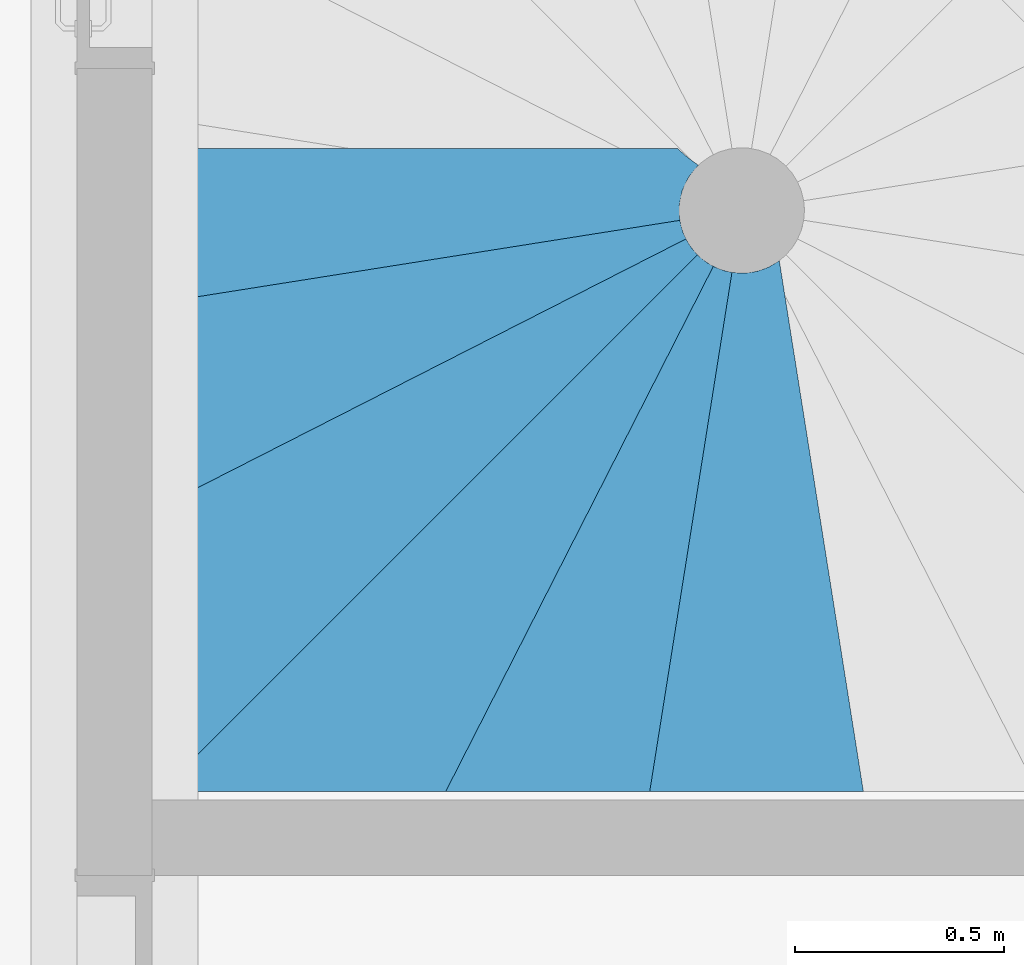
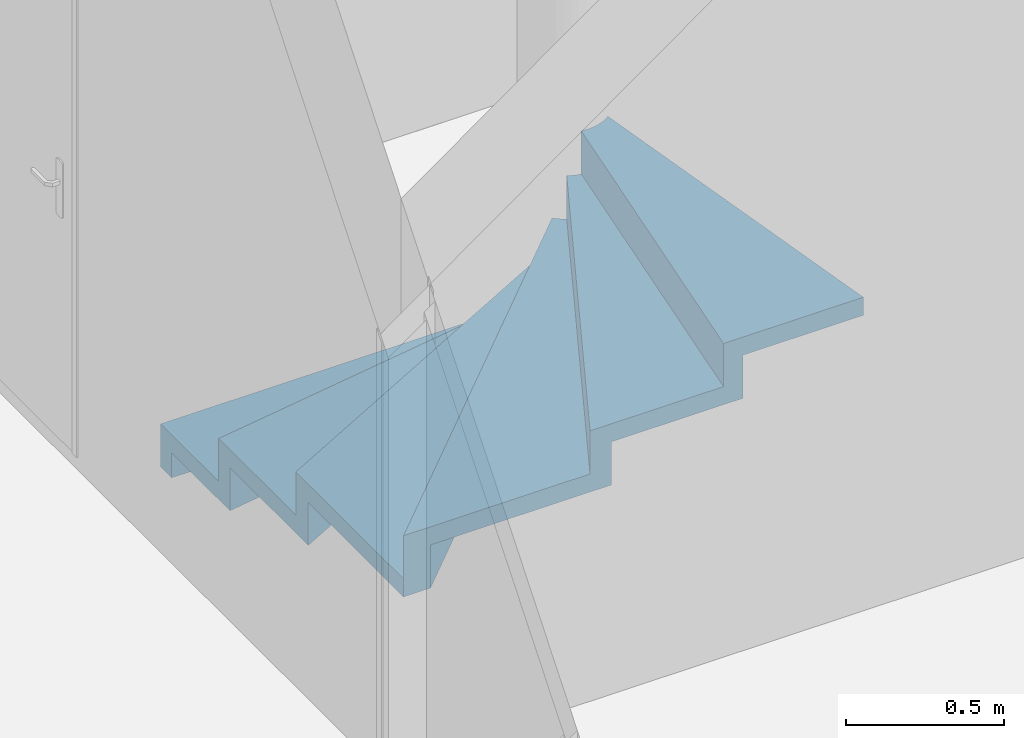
# One storey, part 27 of 29: 1 stair, 1 element without a shape of its own.
"""IFC2X3 building model written with IfcOpenShell, lengths in centimetres."""

from ifc_helpers import new_model, entity, si_unit, converted_unit, derived_unit, direction, frame, origin, place, context, subcontext, project, spatial, faceted_brep, material, element, aggregate, save


model = new_model("IFC2X3")

# Units and contexts
model_context = context("Model", 3, precision=0.001, world=origin(), true_north=direction((6.12303176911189e-17, 1.0)))
body_context = subcontext(model_context, "Body", "Model", "MODEL_VIEW")
ifc_project = project(units=[si_unit("LENGTHUNIT", "METRE", prefix="CENTI"), si_unit("AREAUNIT", "SQUARE_METRE"), si_unit("VOLUMEUNIT", "CUBIC_METRE"), converted_unit("PLANEANGLEUNIT", "DEGREE", entity("IfcRatioMeasure", 0.0174532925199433), si_unit("PLANEANGLEUNIT", "RADIAN"), dimensions=[0, 0, 0, 0, 0, 0, 0]), si_unit("MASSUNIT", "GRAM", prefix="KILO"), derived_unit("MASSDENSITYUNIT", [(si_unit("MASSUNIT", "GRAM", prefix="KILO"), 1), (si_unit("LENGTHUNIT", "METRE"), -3)]), si_unit("TIMEUNIT", "SECOND"), si_unit("FREQUENCYUNIT", "HERTZ"), si_unit("THERMODYNAMICTEMPERATUREUNIT", "DEGREE_CELSIUS"), derived_unit("THERMALTRANSMITTANCEUNIT", [(si_unit("MASSUNIT", "GRAM", prefix="KILO"), 1), (si_unit("THERMODYNAMICTEMPERATUREUNIT", "KELVIN"), -1), (si_unit("TIMEUNIT", "SECOND"), -3)]), derived_unit("VOLUMETRICFLOWRATEUNIT", [(si_unit("LENGTHUNIT", "METRE"), 3), (si_unit("TIMEUNIT", "SECOND"), -1)]), si_unit("ELECTRICCURRENTUNIT", "AMPERE"), si_unit("ELECTRICVOLTAGEUNIT", "VOLT"), si_unit("POWERUNIT", "WATT"), si_unit("FORCEUNIT", "NEWTON"), si_unit("ILLUMINANCEUNIT", "LUX"), si_unit("LUMINOUSFLUXUNIT", "LUMEN"), si_unit("LUMINOUSINTENSITYUNIT", "CANDELA"), derived_unit("USERDEFINED", [(si_unit("MASSUNIT", "GRAM", prefix="KILO"), -1), (si_unit("LENGTHUNIT", "METRE"), -2), (si_unit("TIMEUNIT", "SECOND"), 3), (si_unit("LUMINOUSFLUXUNIT", "LUMEN"), 1)]), derived_unit("LINEARVELOCITYUNIT", [(si_unit("LENGTHUNIT", "METRE"), 1), (si_unit("TIMEUNIT", "SECOND"), -1)]), si_unit("PRESSUREUNIT", "PASCAL"), derived_unit("USERDEFINED", [(si_unit("LENGTHUNIT", "METRE"), -2), (si_unit("MASSUNIT", "GRAM", prefix="KILO"), 1), (si_unit("TIMEUNIT", "SECOND"), -2)])], contexts=[model_context])

# Site, building, storey
site_placement = place(None, origin())
site = spatial("IfcSite", under=ifc_project, at=site_placement, Name="Default", CompositionType="ELEMENT")
building_placement = place(site_placement, origin())
building = spatial("IfcBuilding", under=site, at=building_placement, Name="CAGE 03", CompositionType="ELEMENT")
storey_placement = place(building_placement, frame((0.0, 0.0, -26.0)))
storey = spatial("IfcBuildingStorey", under=building, at=storey_placement, Name="+3.74", CompositionType="ELEMENT", Elevation=-26.0000000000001)

# Stairs
stair_1_placement = place(storey_placement, frame((7033.36582014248, 4652.6606660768, 0.0)))
stair_1 = element("IfcStair", 1, at=stair_1_placement, inside=storey, Name="Escalier:Monobloc-générique", ObjectType="Escalier:Monobloc-générique", ShapeType="NOTDEFINED")
ifc_material = material(Name="Béton, C25/30")
stair_2_placement = place(stair_1_placement, origin())
stair_2 = element("IfcStair", 2, at=stair_2_placement, material=ifc_material, Name="Escalier:Monobloc-générique", ObjectType="Escalier:Monobloc-générique", ShapeType="NOTDEFINED", context=body_context, shape_type="Brep", body=[
    faceted_brep([(126.994218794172, 130.007713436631, 16.6666666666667), (125.191508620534, 133.141197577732, 16.6666666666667), (124.190825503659, 136.614973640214, 16.6666666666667), (124.050291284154, 140.227277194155, 16.6666666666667), (124.778068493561, 143.768297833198, 16.6666666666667), (126.331886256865, 147.032365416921, 16.6666666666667), (128.621495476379, 149.829895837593, 16.6666666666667), (126.054733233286, 151.706272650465, 16.6666666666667), (123.669290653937, 153.808348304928, 16.6666666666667), (0.0, 153.808348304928, 16.6666666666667), (0.0, 109.893805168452, 16.6666666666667), (128.621495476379, 149.829895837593, 9.66666666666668), (126.331886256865, 147.032365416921, 9.66666666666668), (124.778068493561, 143.768297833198, 9.66666666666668), (124.050291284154, 140.227277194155, 9.66666666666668), (124.190825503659, 136.614973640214, 9.66666666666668), (125.191508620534, 133.141197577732, 9.66666666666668), (126.994218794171, 130.007713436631, 9.66666666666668), (0.0, 109.893805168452, 9.66666666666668), (0.0, 153.808348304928, 9.66666666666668), (123.669290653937, 153.808348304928, 9.66666666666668), (126.054733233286, 151.706272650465, 9.66666666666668)], [[[0, 1, 2, 3, 4, 5, 6, 7, 8, 9, 10]], [[11, 12, 13, 14, 15, 16, 17, 18, 19, 20, 21]], [[1, 0, 17, 16]], [[2, 1, 16, 15]], [[14, 3, 2, 15]], [[11, 6, 5, 12]], [[12, 5, 4, 13]], [[13, 4, 3, 14]], [[10, 9, 19, 18]], [[9, 8, 20, 19]], [[11, 21, 7, 6]], [[20, 8, 7, 21]], [[0, 10, 18, 17]]]),
    faceted_brep([(0.0, 116.981061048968, 33.3333333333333), (0.0, 60.3178918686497, 33.3333333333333), (130.358867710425, 126.739052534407, 33.3333333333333), (128.096356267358, 128.699002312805, 33.3333333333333), (126.268069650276, 131.069177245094, 33.3333333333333), (124.946817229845, 133.755187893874, 33.3333333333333), (124.185216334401, 136.650067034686, 33.3333333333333), (124.946817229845, 133.755187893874, 26.3333333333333), (126.268069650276, 131.069177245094, 26.3333333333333), (128.096356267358, 128.699002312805, 26.3333333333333), (130.358867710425, 126.739052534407, 26.3333333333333), (0.0, 60.3178918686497, 26.3333333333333), (0.0, 116.981061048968, 26.3333333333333), (124.185216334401, 136.650067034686, 26.3333333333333)], [[[0, 1, 2, 3, 4, 5, 6]], [[7, 8, 9, 10, 11, 12, 13]], [[10, 9, 3, 2]], [[4, 3, 9, 8]], [[13, 6, 5, 7]], [[8, 7, 5, 4]], [[1, 0, 12, 11]], [[0, 6, 13, 12]], [[2, 1, 11, 10]]]),
    faceted_brep([(0.0, 68.1741755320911, 50.0), (0.0, 0.0, 50.0), (9.90299964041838, 0.0, 50.0), (134.571593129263, 124.668593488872, 50.0), (131.813451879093, 125.833621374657, 50.0), (129.341642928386, 127.523234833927, 50.0), (127.254650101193, 129.670114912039, 50.0), (125.635625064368, 132.188723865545, 50.0), (129.341642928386, 127.523234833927, 43.0), (131.813451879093, 125.833621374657, 43.0), (134.571593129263, 124.668593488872, 43.0), (9.90299964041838, 0.0, 43.0), (0.0, 0.0, 43.0), (0.0, 68.1741755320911, 43.0), (125.635625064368, 132.188723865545, 43.0), (127.254650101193, 129.670114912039, 43.0)], [[[0, 1, 2, 3, 4, 5, 6, 7]], [[8, 9, 10, 11, 12, 13, 14, 15]], [[2, 1, 12, 11]], [[10, 9, 4, 3]], [[5, 4, 9, 8]], [[14, 7, 6, 15]], [[8, 15, 6, 5]], [[3, 2, 11, 10]], [[1, 0, 13, 12]], [[0, 7, 14, 13]]]),
    faceted_brep([(128.395150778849, 128.391646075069, 66.6666666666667), (0.00350470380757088, 0.0, 66.6666666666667), (76.0357496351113, 0.0, 66.6666666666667), (139.217710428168, 124.001580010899, 66.6666666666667), (136.234575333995, 124.257122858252, 66.6666666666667), (133.361619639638, 125.100047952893, 66.6666666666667), (130.713306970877, 126.496771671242, 66.6666666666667), (130.713306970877, 126.496771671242, 59.6666666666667), (133.361619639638, 125.100047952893, 59.6666666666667), (136.234575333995, 124.257122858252, 59.6666666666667), (139.217710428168, 124.001580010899, 59.6666666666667), (76.0357496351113, 0.0, 59.6666666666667), (0.00350470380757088, 0.0, 59.6666666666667), (128.395150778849, 128.391646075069, 59.6666666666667)], [[[0, 1, 2, 3, 4, 5, 6]], [[7, 8, 9, 10, 11, 12, 13]], [[2, 1, 12, 11]], [[10, 9, 4, 3]], [[5, 4, 9, 8]], [[13, 0, 6, 7]], [[6, 5, 8, 7]], [[3, 2, 11, 10]], [[1, 0, 13, 12]]]),
    faceted_brep([(132.192924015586, 125.633485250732, 83.3333333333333), (68.1794659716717, 0.0, 83.3333333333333), (124.07532123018, 0.0, 83.3333333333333), (143.84218316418, 124.803054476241, 83.3333333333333), (140.926168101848, 124.124184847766, 83.3333333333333), (137.933414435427, 124.037968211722, 83.3333333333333), (134.983153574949, 124.547839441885, 83.3333333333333), (132.192924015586, 125.633485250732, 76.3333333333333), (134.983153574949, 124.547839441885, 76.3333333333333), (137.933414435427, 124.037968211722, 76.3333333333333), (140.926168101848, 124.124184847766, 76.3333333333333), (143.842183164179, 124.803054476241, 76.3333333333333), (124.07532123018, 0.0, 76.3333333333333), (68.1794659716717, 0.0, 76.3333333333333)], [[[0, 1, 2, 3, 4, 5, 6]], [[7, 8, 9, 10, 11, 12, 13]], [[11, 10, 4, 3]], [[5, 4, 10, 9]], [[7, 0, 6, 8]], [[6, 5, 9, 8]], [[2, 1, 13, 12]], [[3, 2, 12, 11]], [[1, 0, 7, 13]]]),
    faceted_brep([(116.988065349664, 0.0, 100.0), (168.10619483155, 0.0, 100.0), (147.99228656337, 126.994218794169, 100.0), (145.428850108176, 125.447513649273, 100.0), (142.609302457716, 124.44070964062, 100.0), (139.645968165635, 124.01391561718, 100.0), (136.656899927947, 124.184134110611, 100.0), (145.428850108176, 125.447513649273, 93.0), (147.99228656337, 126.994218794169, 93.0), (168.10619483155, 0.0, 93.0), (116.988065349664, 0.0, 93.0), (136.656899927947, 124.184134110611, 93.0), (139.645968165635, 124.01391561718, 93.0), (142.609302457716, 124.44070964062, 93.0)], [[[0, 1, 2, 3, 4, 5, 6]], [[7, 8, 9, 10, 11, 12, 13]], [[8, 7, 3, 2]], [[4, 3, 7, 13]], [[12, 11, 6, 5]], [[5, 4, 13, 12]], [[1, 0, 10, 9]], [[0, 6, 11, 10]], [[2, 1, 9, 8]]]),
    faceted_brep([(126.054733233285, 151.706272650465, 0.0), (123.669290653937, 153.808348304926, 0.0), (123.669290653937, 153.808348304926, 9.66666666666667), (126.054733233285, 151.706272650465, 9.66666666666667), (128.621495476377, 149.829895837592, 9.66666666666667), (128.621495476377, 149.829895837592, 0.0), (122.29894812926, 150.320492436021, 0.0), (126.380827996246, 147.109038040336, 0.0), (122.872108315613, 145.31928503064, 0.0), (120.989420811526, 146.808348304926, 0.0), (0.0, 153.808348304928, 0.0), (0.0, 146.808348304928, 0.0), (124.836943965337, 143.940429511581, 0.0), (122.872108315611, 145.319285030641, 9.66666666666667), (120.989420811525, 146.808348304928, 9.66666666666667), (124.836943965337, 143.940429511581, 9.66666666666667), (126.380827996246, 147.109038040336, 9.66666666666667), (122.29894812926, 150.32049243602, 9.66666666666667), (0.0, 153.808348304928, 9.66666666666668), (0.0, 146.808348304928, 9.66666666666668)], [[[0, 1, 2, 3]], [[4, 5, 0, 3]], [[6, 0, 7]], [[6, 1, 0]], [[6, 7, 8]], [[8, 9, 6]], [[6, 9, 10]], [[1, 6, 10]], [[11, 10, 9]], [[0, 5, 7]], [[8, 7, 12]], [[9, 8, 13, 14]], [[13, 8, 12, 15]], [[16, 3, 17]], [[16, 4, 3]], [[13, 16, 17]], [[15, 16, 13]], [[3, 2, 17]], [[17, 2, 18]], [[14, 17, 18]], [[18, 19, 14]], [[17, 14, 13]], [[10, 18, 2, 1]], [[19, 11, 9, 14]], [[18, 10, 11, 19]], [[12, 7, 16, 15]], [[5, 4, 16, 7]]]),
    faceted_brep([(0.0, 116.981061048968, 26.3333333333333), (0.0, 116.981061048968, 16.6666666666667), (0.0, 109.893805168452, 16.6666666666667), (0.0, 109.893805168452, 26.3333333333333), (126.994218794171, 130.007713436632, 16.6666666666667), (125.184577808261, 133.157559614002, 16.6666666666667), (125.184577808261, 133.157559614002, 26.3333333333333), (126.994218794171, 130.007713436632, 26.3333333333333), (124.185216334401, 136.650067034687, 16.6666666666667), (124.185216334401, 136.650067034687, 26.3333333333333)], [[[0, 1, 2, 3]], [[4, 5, 6, 7]], [[8, 9, 6, 5]], [[1, 0, 9, 8]], [[2, 1, 8, 5, 4]], [[3, 2, 4, 7]], [[0, 3, 7, 6, 9]]]),
    faceted_brep([(0.0, 68.1741755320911, 43.0), (0.0, 68.1741755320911, 33.3333333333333), (0.0, 60.3178918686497, 33.3333333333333), (0.0, 60.3178918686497, 43.0), (130.358867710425, 126.739052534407, 33.3333333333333), (127.664863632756, 129.175811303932, 33.3333333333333), (127.664863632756, 129.175811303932, 43.0), (130.358867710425, 126.739052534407, 43.0), (125.635625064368, 132.188723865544, 33.3333333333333), (125.635625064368, 132.188723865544, 43.0)], [[[0, 1, 2, 3]], [[4, 5, 6, 7]], [[8, 9, 6, 5]], [[1, 0, 9, 8]], [[2, 1, 8, 5, 4]], [[3, 2, 4, 7]], [[0, 3, 7, 6, 9]]]),
    faceted_brep([(9.90299964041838, 0.0, 59.6666666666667), (0.00350470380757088, 0.0, 59.6666666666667), (0.00350470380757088, 0.0, 50.0), (9.90299964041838, 0.0, 50.0), (134.571593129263, 124.668593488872, 50.0), (131.256294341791, 126.153404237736, 50.0), (131.256294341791, 126.153404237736, 59.6666666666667), (134.571593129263, 124.668593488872, 59.6666666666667), (128.395150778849, 128.391646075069, 50.0), (128.395150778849, 128.391646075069, 59.6666666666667)], [[[0, 1, 2, 3]], [[4, 5, 6, 7]], [[8, 9, 6, 5]], [[2, 1, 9, 8]], [[3, 2, 8, 5, 4]], [[0, 3, 4, 7]], [[1, 0, 7, 6, 9]]]),
    faceted_brep([(76.0357496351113, 0.0, 76.3333333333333), (68.1794659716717, 0.0, 76.3333333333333), (68.1794659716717, 0.0, 66.6666666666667), (76.0357496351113, 0.0, 66.6666666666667), (139.217710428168, 124.001580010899, 66.6666666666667), (135.605782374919, 124.389069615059, 66.6666666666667), (135.605782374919, 124.389069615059, 76.3333333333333), (139.217710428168, 124.001580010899, 76.3333333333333), (132.192924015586, 125.633485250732, 66.6666666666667), (132.192924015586, 125.633485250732, 76.3333333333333)], [[[0, 1, 2, 3]], [[4, 5, 6, 7]], [[8, 9, 6, 5]], [[2, 1, 9, 8]], [[3, 2, 8, 5, 4]], [[0, 3, 4, 7]], [[1, 0, 7, 6, 9]]]),
    faceted_brep([(124.07532123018, 0.0, 93.0), (116.988065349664, 0.0, 93.0), (116.988065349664, 0.0, 83.3333333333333), (124.07532123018, 0.0, 83.3333333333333), (143.842183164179, 124.803054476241, 83.3333333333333), (140.287291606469, 124.055339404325, 83.3333333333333), (140.287291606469, 124.055339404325, 93.0), (143.842183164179, 124.803054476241, 93.0), (136.656899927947, 124.184134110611, 83.3333333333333), (136.656899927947, 124.184134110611, 93.0)], [[[0, 1, 2, 3]], [[4, 5, 6, 7]], [[8, 9, 6, 5]], [[2, 1, 9, 8]], [[3, 2, 8, 5, 4]], [[0, 3, 4, 7]], [[1, 0, 7, 6, 9]]]),
])
aggregate(stair_1, [stair_2])

save(model, "model.ifc")
